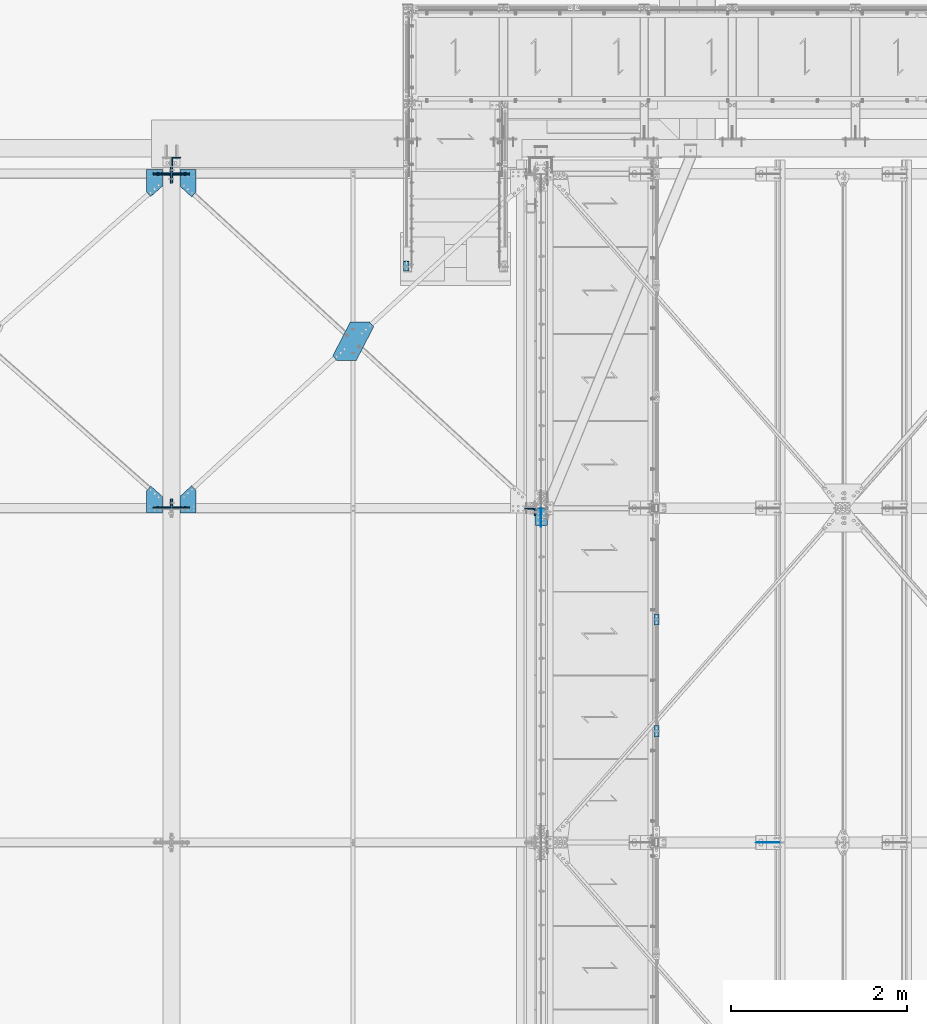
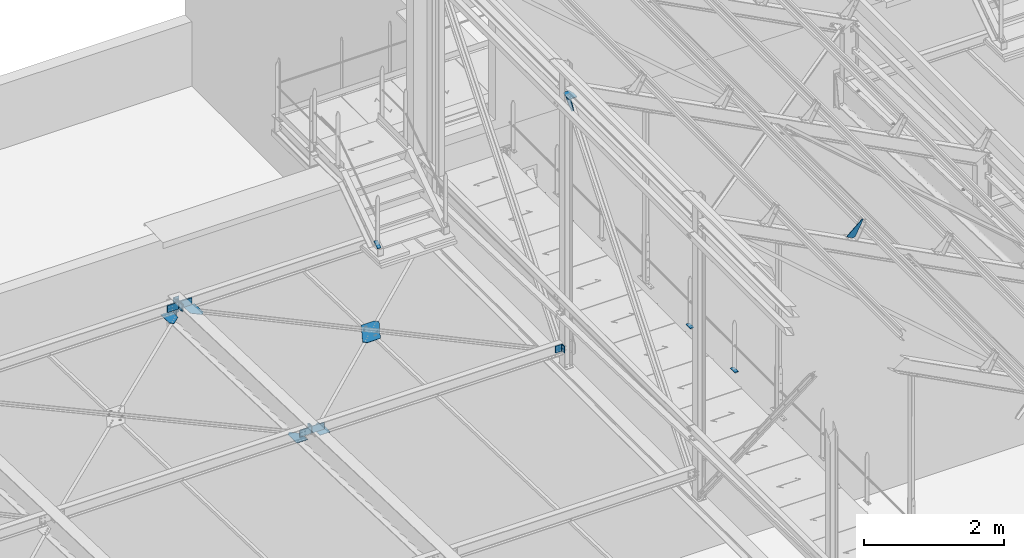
# One storey, part 81 of 362: 11 beams, 8 members, 17 elements without a shape of their own.
"""IFC2X3 building model written with IfcOpenShell, lengths in millimetres."""

from ifc_helpers import new_model, si_unit, frame, frame_2d, origin_with_axes, origin_2d_with_axis, place, context, subcontext, project, spatial, polyline, circle_curve, parameter, trimmed, segment, composite_curve, rectangle, l_section, outline, extrude, clip, halfspace, material, type_object, element, aggregate, save


model = new_model("IFC2X3")

# Units and contexts
model_context = context("Model", 3, precision=1e-05, world=origin_with_axes())
body_context = subcontext(model_context, "Body", "Model", "MODEL_VIEW")
ifc_project = project(units=[si_unit("LENGTHUNIT", "METRE", prefix="MILLI"), si_unit("AREAUNIT", "SQUARE_METRE"), si_unit("VOLUMEUNIT", "CUBIC_METRE"), si_unit("MASSUNIT", "GRAM", prefix="KILO"), si_unit("TIMEUNIT", "SECOND"), si_unit("PLANEANGLEUNIT", "RADIAN"), si_unit("SOLIDANGLEUNIT", "STERADIAN"), si_unit("THERMODYNAMICTEMPERATUREUNIT", "DEGREE_CELSIUS"), si_unit("LUMINOUSINTENSITYUNIT", "LUMEN")], contexts=[model_context])

# Site, building, storey
site_placement = place(None, origin_with_axes())
site = spatial("IfcSite", under=ifc_project, at=site_placement, Name="Undefined", CompositionType="ELEMENT")
building_placement = place(site_placement, origin_with_axes())
building = spatial("IfcBuilding", under=site, at=building_placement, Name="Undefined", CompositionType="ELEMENT")
storey_placement = place(building_placement, origin_with_axes())
storey = spatial("IfcBuildingStorey", under=building, at=storey_placement, Name="Undefined", CompositionType="ELEMENT", Elevation=0.0)

# Assembly, beams
assembly_1_placement = place(storey_placement, origin_with_axes())
assembly_1 = element("IfcElementAssembly", 1, at=assembly_1_placement, inside=storey, Name="MAIN COURANTE", AssemblyPlace="NOTDEFINED", PredefinedType="NOTDEFINED")
ifc_material = material(Name="Undefined/S235-E24")
beam_type_1 = type_object("IfcBeamType", Name="PL10*60", PredefinedType="NOTDEFINED")
beam_1_placement = place(assembly_1_placement, frame((13993.999888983, 8930.00344717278, 8245.00000278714), z_axis=(-1.0, 0.0, 0.0), x_axis=(0.0, -1.0, 0.0)))
beam_1 = element("IfcBeam", 2, at=beam_1_placement, type_object=beam_type_1, material=ifc_material, Name="PLATINE", ObjectType="PL10*60", context=body_context, shape_type="SweptSolid", body=[
    extrude(rectangle(XDim=10.0, YDim=60.0, at=origin_2d_with_axis()), frame((130.0, 0.0, 0.0), z_axis=(-1.0, 0.0, 0.0), x_axis=(0.0, -1.0, 0.0)), (0.0, 0.0, 1.0), 130.0),
])
beam_2_placement = place(assembly_1_placement, frame((13993.9998900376, 10200.0034471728, 8245.00000191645), z_axis=(-1.0, 0.0, 0.0), x_axis=(0.0, -1.0, 0.0)))
beam_2 = element("IfcBeam", 3, at=beam_2_placement, type_object=beam_type_1, material=ifc_material, Name="PLATINE", ObjectType="PL10*60", context=body_context, shape_type="SweptSolid", body=[
    extrude(rectangle(XDim=10.0, YDim=60.0, at=origin_2d_with_axis()), frame((130.0, 0.0, 0.0), z_axis=(-1.0, 0.0, 0.0), x_axis=(0.0, -1.0, 0.0)), (0.0, 0.0, 1.0), 130.0),
])
aggregate(assembly_1, [beam_1, beam_2])

# Assembly, member
assembly_2_placement = place(storey_placement, origin_with_axes())
assembly_2 = element("IfcElementAssembly", 4, at=assembly_2_placement, inside=storey, Name="MAIN COURANTE", AssemblyPlace="NOTDEFINED", PredefinedType="NOTDEFINED")
member_type_1 = type_object("IfcMemberType", Name="PL10*60", PredefinedType="NOTDEFINED")
member_1_placement = place(assembly_2_placement, frame((11149.9863365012, 14205.3993570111, 8264.81946439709), z_axis=(-1.0, 0.0, 0.0), x_axis=(0.0, -0.822192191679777, -0.569209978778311)))
member_1 = element("IfcMember", 5, at=member_1_placement, type_object=member_type_1, material=ifc_material, Name="PLATINE", ObjectType="PL10*60", context=body_context, shape_type="SweptSolid", body=[
    extrude(rectangle(XDim=10.0, YDim=60.0, at=origin_2d_with_axis()), frame((130.0, 0.0, 0.0), z_axis=(-1.0, 0.0, 0.0), x_axis=(0.0, -1.0, 0.0)), (0.0, 0.0, 1.0), 130.0),
])
aggregate(assembly_2, [member_1])

# Assembly, beam
assembly_3_placement = place(storey_placement, origin_with_axes())
assembly_3 = element("IfcElementAssembly", 6, at=assembly_3_placement, inside=storey, Name="PANNE SHED", AssemblyPlace="NOTDEFINED", PredefinedType="NOTDEFINED")
beam_type_2 = type_object("IfcBeamType", Name="TOLE8*140", PredefinedType="NOTDEFINED")
beam_3_placement = place(assembly_3_placement, frame((15395.0613651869, 7600.0, 11158.7378432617), z_axis=(0.0, -1.0, 0.0), x_axis=(-0.886081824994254, 0.0, 0.463528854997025)))
beam_3 = element("IfcBeam", 7, at=beam_3_placement, type_object=beam_type_2, material=ifc_material, Name="RAIDISSEUR", ObjectType="TOLE8*140", context=body_context, shape_type="SweptSolid", body=[
    extrude(outline(polyline([(0.0, 0.0), (19.9999999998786, -3.63797880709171e-12), (140.000030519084, 299.999999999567), (140.000030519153, 319.999999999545), (30.0000147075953, 319.999999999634), (0.0, 290.0), (0.0, 0.0)])), frame((0.0, 0.0, -4.0), z_axis=(0.0, 0.0, 1.0), x_axis=(1.0, 0.0, 0.0)), (0.0, 0.0, 1.0), 8.0),
])
aggregate(assembly_3, [beam_3])

assembly_4_placement = place(storey_placement, origin_with_axes())
assembly_4 = element("IfcElementAssembly", 8, at=assembly_4_placement, inside=storey, AssemblyPlace="NOTDEFINED", PredefinedType="NOTDEFINED")
beam_type_3 = type_object("IfcBeamType", Name="TOLE6*178", PredefinedType="NOTDEFINED")
beam_4_placement = place(assembly_4_placement, frame((8710.2360054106, 11655.9483940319, 7480.59839222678), z_axis=(7.58071938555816e-11, 0.0314107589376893, 0.999506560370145), x_axis=(-0.73601445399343, -0.676631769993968, 0.021264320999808)))
beam_4 = element("IfcBeam", 9, at=beam_4_placement, type_object=beam_type_3, material=ifc_material, Name="GOUSSET", ObjectType="TOLE6*178", context=body_context, shape_type="SweptSolid", body=[
    extrude(outline(polyline([(0.0, 0.0), (176.947631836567, 5.82076609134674e-10), (305.251708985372, 139.495483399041), (174.518157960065, 259.740600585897), (-7.90371359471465e-08, 70.000007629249), (0.0, 0.0)])), frame((0.0, 0.0, -3.0), z_axis=(0.0, 0.0, 1.0), x_axis=(1.0, 0.0, 0.0)), (0.0, 0.0, 1.0), 6.0),
])
aggregate(assembly_4, [beam_4])

assembly_5_placement = place(storey_placement, origin_with_axes())
assembly_5 = element("IfcElementAssembly", 10, at=assembly_5_placement, inside=storey, AssemblyPlace="NOTDEFINED", PredefinedType="NOTDEFINED")
beam_5_placement = place(assembly_5_placement, frame((8710.23600541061, 14937.5769481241, 7377.46755199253), z_axis=(-1.05403257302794e-09, -0.0314112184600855, -0.999506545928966), x_axis=(-0.736014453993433, 0.676631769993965, -0.0212643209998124)))
beam_5 = element("IfcBeam", 11, at=beam_5_placement, type_object=beam_type_3, material=ifc_material, Name="GOUSSET", ObjectType="TOLE6*178", context=body_context, shape_type="SweptSolid", body=[
    extrude(outline(polyline([(0.0, 0.0), (176.947631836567, 5.82076609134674e-10), (305.251708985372, 139.495483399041), (174.518157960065, 259.740600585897), (-7.90371359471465e-08, 70.000007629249), (0.0, 0.0)])), frame((0.0, 0.0, -3.0), z_axis=(0.0, 0.0, 1.0), x_axis=(1.0, 0.0, 0.0)), (0.0, 0.0, 1.0), 6.0),
])
aggregate(assembly_5, [beam_5])

assembly_6_placement = place(storey_placement, origin_with_axes())
assembly_6 = element("IfcElementAssembly", 12, at=assembly_6_placement, inside=storey, AssemblyPlace="NOTDEFINED", PredefinedType="NOTDEFINED")
beam_type_4 = type_object("IfcBeamType", Name="TOLE6*182", PredefinedType="NOTDEFINED")
beam_6_placement = place(assembly_6_placement, frame((8244.71607978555, 11651.3792402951, 7480.74198576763), z_axis=(-1.05403257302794e-09, -0.0314112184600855, -0.999506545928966), x_axis=(0.749166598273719, -0.662054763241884, 0.0208062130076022)))
beam_6 = element("IfcBeam", 13, at=beam_6_placement, type_object=beam_type_4, material=ifc_material, Name="GOUSSET", ObjectType="TOLE6*182", context=body_context, shape_type="SweptSolid", body=[
    extrude(outline(polyline([(0.0, 0.0), (180.579223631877, -4.80213202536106e-10), (303.207183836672, 138.694641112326), (167.120590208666, 259.016693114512), (-7.90371359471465e-08, 70.000007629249), (0.0, 0.0)])), frame((0.0, 0.0, -3.0), z_axis=(0.0, 0.0, 1.0), x_axis=(1.0, 0.0, 0.0)), (0.0, 0.0, 1.0), 6.0),
])
aggregate(assembly_6, [beam_6])

assembly_7_placement = place(storey_placement, origin_with_axes())
assembly_7 = element("IfcElementAssembly", 14, at=assembly_7_placement, inside=storey, AssemblyPlace="NOTDEFINED", PredefinedType="NOTDEFINED")
beam_7_placement = place(assembly_7_placement, frame((8244.71607978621, 14942.1461018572, 7377.32395845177), z_axis=(7.58071938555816e-11, 0.0314107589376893, 0.999506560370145), x_axis=(0.749166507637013, 0.66205486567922, -0.0208062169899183)))
beam_7 = element("IfcBeam", 15, at=beam_7_placement, type_object=beam_type_4, material=ifc_material, Name="GOUSSET", ObjectType="TOLE6*182", context=body_context, shape_type="SweptSolid", body=[
    extrude(outline(polyline([(0.0, 0.0), (180.579223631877, -4.80213202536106e-10), (303.207183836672, 138.694641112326), (167.120590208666, 259.016693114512), (-7.90371359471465e-08, 70.000007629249), (0.0, 0.0)])), frame((0.0, 0.0, -3.0), z_axis=(0.0, 0.0, 1.0), x_axis=(1.0, 0.0, 0.0)), (0.0, 0.0, 1.0), 6.0),
])
aggregate(assembly_7, [beam_7])

assembly_8_placement = place(storey_placement, origin_with_axes())
assembly_8 = element("IfcElementAssembly", 16, at=assembly_8_placement, inside=storey, AssemblyPlace="NOTDEFINED", PredefinedType="NOTDEFINED")
beam_type_5 = type_object("IfcBeamType", Name="TOLE6*261", PredefinedType="NOTDEFINED")
beam_8_placement = place(assembly_8_placement, frame((10732.8203383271, 13515.3533600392, 7422.1633824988), z_axis=(7.58071938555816e-11, 0.0314107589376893, 0.999506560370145), x_axis=(-1.0, 0.0, 0.0)))
beam_8 = element("IfcBeam", 17, at=beam_8_placement, type_object=beam_type_5, material=ifc_material, Name="GOUSSET", ObjectType="TOLE6*261", context=body_context, shape_type="SweptSolid", body=[
    extrude(outline(polyline([(0.0, 0.0), (219.999999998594, -9.93168214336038e-10), (419.52822875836, 385.870544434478), (372.140594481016, 437.391571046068), (152.140594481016, 437.391571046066), (-47.3876152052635, 51.521007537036), (0.0, 0.0)])), frame((0.0, 0.0, -3.0), z_axis=(0.0, 0.0, 1.0), x_axis=(1.0, 0.0, 0.0)), (0.0, 0.0, 1.0), 6.0),
])
aggregate(assembly_8, [beam_8])

# Assembly, member
assembly_9_placement = place(storey_placement, origin_with_axes())
assembly_9 = element("IfcElementAssembly", 18, at=assembly_9_placement, inside=storey, AssemblyPlace="NOTDEFINED", PredefinedType="NOTDEFINED")
member_type_2 = type_object("IfcMemberType", Name="L200*100*10", PredefinedType="NOTDEFINED")
member_2_placement = place(assembly_9_placement, frame((8374.99999918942, 15254.8592594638, 7530.57167466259), z_axis=(-1.0, 0.0, 0.0), x_axis=(-1.05403257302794e-09, -0.0314112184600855, -0.999506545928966)))
member_2 = element("IfcMember", 19, at=member_2_placement, type_object=member_type_2, material=ifc_material, Name="ATTACHE", ObjectType="L200*100*10", context=body_context, shape_type="Clipping", body=[
    clip(extrude(l_section(Depth=200.0, Width=100.0, Thickness=10.0, FilletRadius=15.0, EdgeRadius=7.5, at=origin_2d_with_axis()), frame((120.0, 0.0, 0.0), z_axis=(-1.0, 0.0, 0.0), x_axis=(0.0, -1.0, 0.0)), (0.0, 0.0, 1.0), 120.0), halfspace(frame((1.72803993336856e-11, -19.9999999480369, -100.0), z_axis=(0.0, -0.999999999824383, 1.87412578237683e-05), x_axis=(-3.14419594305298e-10, 1.87412578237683e-05, 0.999999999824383)), False)),
])
aggregate(assembly_9, [member_2])

assembly_10_placement = place(storey_placement, origin_with_axes())
assembly_10 = element("IfcElementAssembly", 20, at=assembly_10_placement, inside=storey, AssemblyPlace="NOTDEFINED", PredefinedType="NOTDEFINED")
member_3_placement = place(assembly_10_placement, frame((8584.99999918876, 15251.0899132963, 7410.63088915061), z_axis=(1.0, 0.0, 0.0), x_axis=(7.58071938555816e-11, 0.0314107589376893, 0.999506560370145)))
member_3 = element("IfcMember", 21, at=member_3_placement, type_object=member_type_2, material=ifc_material, Name="ATTACHE", ObjectType="L200*100*10", context=body_context, shape_type="Clipping", body=[
    clip(extrude(l_section(Depth=200.0, Width=100.0, Thickness=10.0, FilletRadius=15.0, EdgeRadius=7.5, at=origin_2d_with_axis()), frame((120.0, 0.0, 0.0), z_axis=(-1.0, 0.0, 0.0), x_axis=(0.0, -1.0, 0.0)), (0.0, 0.0, 1.0), 120.0), halfspace(frame((1.72803993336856e-11, -19.9999999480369, -100.0), z_axis=(0.0, -0.999999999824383, 1.87412578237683e-05), x_axis=(-3.14419594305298e-10, 1.87412578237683e-05, 0.999999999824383)), False)),
])
aggregate(assembly_10, [member_3])

assembly_11_placement = place(storey_placement, origin_with_axes())
assembly_11 = element("IfcElementAssembly", 22, at=assembly_11_placement, inside=storey, AssemblyPlace="NOTDEFINED", PredefinedType="NOTDEFINED")
member_4_placement = place(assembly_11_placement, frame((8374.99999918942, 15145.1413575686, 7413.96050534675), z_axis=(-1.0, 0.0, 0.0), x_axis=(7.58071938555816e-11, 0.0314107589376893, 0.999506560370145)))
member_4 = element("IfcMember", 23, at=member_4_placement, type_object=member_type_2, material=ifc_material, Name="ATTACHE", ObjectType="L200*100*10", context=body_context, shape_type="SweptSolid", body=[
    extrude(l_section(Depth=200.0, Width=100.0, Thickness=10.0, FilletRadius=15.0, EdgeRadius=7.5, at=origin_2d_with_axis()), frame((120.0, 0.0, 0.0), z_axis=(-1.0, 0.0, 0.0), x_axis=(0.0, -1.0, 0.0)), (0.0, 0.0, 1.0), 120.0),
])
aggregate(assembly_11, [member_4])

assembly_12_placement = place(storey_placement, origin_with_axes())
assembly_12 = element("IfcElementAssembly", 24, at=assembly_12_placement, inside=storey, AssemblyPlace="NOTDEFINED", PredefinedType="NOTDEFINED")
member_5_placement = place(assembly_12_placement, frame((8584.99999918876, 15148.9107037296, 7533.90129085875), z_axis=(1.0, 0.0, 0.0), x_axis=(-1.05403257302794e-09, -0.0314112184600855, -0.999506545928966)))
member_5 = element("IfcMember", 25, at=member_5_placement, type_object=member_type_2, material=ifc_material, Name="ATTACHE", ObjectType="L200*100*10", context=body_context, shape_type="SweptSolid", body=[
    extrude(l_section(Depth=200.0, Width=100.0, Thickness=10.0, FilletRadius=15.0, EdgeRadius=7.5, at=origin_2d_with_axis()), frame((120.0, 0.0, 0.0), z_axis=(-1.0, 0.0, 0.0), x_axis=(0.0, -1.0, 0.0)), (0.0, 0.0, 1.0), 120.0),
])
aggregate(assembly_12, [member_5])

assembly_13_placement = place(storey_placement, origin_with_axes())
assembly_13 = element("IfcElementAssembly", 26, at=assembly_13_placement, inside=storey, AssemblyPlace="NOTDEFINED", PredefinedType="NOTDEFINED")
member_6_placement = place(assembly_13_placement, frame((8375.00000000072, 11454.8598819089, 7649.993212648), z_axis=(-1.0, 0.0, 0.0), x_axis=(-1.05403257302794e-09, -0.0314112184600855, -0.999506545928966)))
member_6 = element("IfcMember", 27, at=member_6_placement, type_object=member_type_2, material=ifc_material, Name="ATTACHE", ObjectType="L200*100*10", context=body_context, shape_type="SweptSolid", body=[
    extrude(l_section(Depth=200.0, Width=100.0, Thickness=10.0, FilletRadius=15.0, EdgeRadius=7.5, at=origin_2d_with_axis()), frame((120.0, 0.0, 0.0), z_axis=(-1.0, 0.0, 0.0), x_axis=(0.0, -1.0, 0.0)), (0.0, 0.0, 1.0), 120.0),
])
aggregate(assembly_13, [member_6])

assembly_14_placement = place(storey_placement, origin_with_axes())
assembly_14 = element("IfcElementAssembly", 28, at=assembly_14_placement, inside=storey, AssemblyPlace="NOTDEFINED", PredefinedType="NOTDEFINED")
member_7_placement = place(assembly_14_placement, frame((8585.00000000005, 11451.0905357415, 7530.05242713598), z_axis=(1.0, 0.0, 0.0), x_axis=(7.58071938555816e-11, 0.0314107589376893, 0.999506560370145)))
member_7 = element("IfcMember", 29, at=member_7_placement, type_object=member_type_2, material=ifc_material, Name="ATTACHE", ObjectType="L200*100*10", context=body_context, shape_type="SweptSolid", body=[
    extrude(l_section(Depth=200.0, Width=100.0, Thickness=10.0, FilletRadius=15.0, EdgeRadius=7.5, at=origin_2d_with_axis()), frame((120.0, 0.0, 0.0), z_axis=(-1.0, 0.0, 0.0), x_axis=(0.0, -1.0, 0.0)), (0.0, 0.0, 1.0), 120.0),
])
aggregate(assembly_14, [member_7])

assembly_15_placement = place(storey_placement, origin_with_axes())
assembly_15 = element("IfcElementAssembly", 30, at=assembly_15_placement, inside=storey, AssemblyPlace="NOTDEFINED", PredefinedType="NOTDEFINED")
member_type_3 = type_object("IfcMemberType", Name="L120*80*10", PredefinedType="NOTDEFINED")
member_8_placement = place(assembly_15_placement, frame((12553.5000000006, 11355.1365315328, 7533.06967512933), z_axis=(-1.0, 0.0, 0.0), x_axis=(7.58071938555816e-11, 0.0314107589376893, 0.999506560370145)))
member_8 = element("IfcMember", 31, at=member_8_placement, type_object=member_type_3, material=ifc_material, Name="ATTACHE", ObjectType="L120*80*10", context=body_context, shape_type="SweptSolid", body=[
    extrude(l_section(Depth=120.0, Width=80.0, Thickness=10.0, FilletRadius=11.0, EdgeRadius=5.5, at=origin_2d_with_axis()), frame((120.0, 0.0, 0.0), z_axis=(-1.0, 0.0, 0.0), x_axis=(0.0, -1.0, 0.0)), (0.0, 0.0, 1.0), 120.0),
])
aggregate(assembly_15, [member_8])

# Assembly, beam
assembly_16_placement = place(storey_placement, origin_with_axes())
assembly_16 = element("IfcElementAssembly", 32, at=assembly_16_placement, inside=storey, AssemblyPlace="NOTDEFINED", PredefinedType="NOTDEFINED")
beam_type_6 = type_object("IfcBeamType", Name="L100*10", PredefinedType="NOTDEFINED")
beam_9_placement = place(assembly_16_placement, frame((8535.0, 15340.0, 7483.28139518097), z_axis=(1.0, 0.0, 0.0), x_axis=(0.0, 0.0, -1.0)))
beam_9 = element("IfcBeam", 33, at=beam_9_placement, type_object=beam_type_6, material=ifc_material, Name="ATTACHE", ObjectType="L100*10", context=body_context, shape_type="SweptSolid", body=[
    extrude(l_section(Depth=100.0, Width=100.0, Thickness=10.0, FilletRadius=12.0, EdgeRadius=6.0, at=origin_2d_with_axis()), frame((280.0, 0.0, 0.0), z_axis=(-1.0, 0.0, 0.0), x_axis=(0.0, -1.0, 0.0)), (0.0, 0.0, 1.0), 280.0),
])
aggregate(assembly_16, [beam_9])

# Assembly, beams
assembly_17_placement = place(storey_placement, origin_with_axes())
assembly_17 = element("IfcElementAssembly", 34, at=assembly_17_placement, inside=storey, Name="MONTANT", AssemblyPlace="NOTDEFINED", PredefinedType="NOTDEFINED")
beam_type_7 = type_object("IfcBeamType", Name="TOLE10*192", PredefinedType="NOTDEFINED")
beam_10_placement = place(assembly_17_placement, frame((12613.5, 11204.9969221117, 12032.0), z_axis=(0.0, 0.0, -1.0), x_axis=(0.0, 1.0, 0.0)))
beam_10 = element("IfcBeam", 35, at=beam_10_placement, type_object=beam_type_7, material=ifc_material, Name="PLAT", ObjectType="TOLE10*192", context=body_context, shape_type="SweptSolid", body=[
    extrude(outline(composite_curve([segment(trimmed(circle_curve(frame_2d((10.0, 10.0), x_axis=(-1.0, 0.0)), 10.0), [parameter(0.0)], [parameter(1.5707963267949)], True, "PARAMETER"), True, "CONTINUOUS"), segment(polyline([(9.99999999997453, 6.91215973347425e-11), (124.5, 0.0), (124.5, 9.0), (172.25, 9.0), (192.25, 29.0), (192.25, 104.0), (172.25, 124.0), (124.0, 124.0), (124.0, 140.0), (10.0, 140.0)]), True, "CONTINUOUS"), segment(trimmed(circle_curve(frame_2d((10.0, 130.0), x_axis=(0.0, 1.0)), 10.0), [parameter(0.0)], [parameter(1.5707963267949)], True, "PARAMETER"), True, "CONTINUOUS"), segment(polyline([(0.0, 130.0), (-1.81898940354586e-10, 10.0000000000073)]), True, "CONTINUOUS")], self_intersect=True)), frame((0.0, 0.0, -5.0), z_axis=(0.0, 0.0, 1.0), x_axis=(1.0, 0.0, 0.0)), (0.0, 0.0, 1.0), 10.0),
])
beam_type_8 = type_object("IfcBeamType", Name="TOLE8*250", PredefinedType="NOTDEFINED")
beam_11_placement = place(assembly_17_placement, frame((12680.0, 11279.9969221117, 12027.0), z_axis=(-1.0, 0.0, 0.0), x_axis=(0.0, 1.0, 0.0)))
beam_11 = element("IfcBeam", 36, at=beam_11_placement, type_object=beam_type_8, material=ifc_material, Name="GOUSSET", ObjectType="TOLE8*250", context=body_context, shape_type="SweptSolid", body=[
    extrude(outline(polyline([(0.0, 0.0), (97.25, 0.0), (117.25, 20.0), (117.25, 100.0), (-35.1891555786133, 249.837203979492), (-97.8472061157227, 200.098205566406), (0.0, 0.0)])), frame((0.0, 0.0, -4.0), z_axis=(0.0, 0.0, 1.0), x_axis=(1.0, 0.0, 0.0)), (0.0, 0.0, 1.0), 8.0),
])
aggregate(assembly_17, [beam_11, beam_10])

save(model, "model.ifc")
